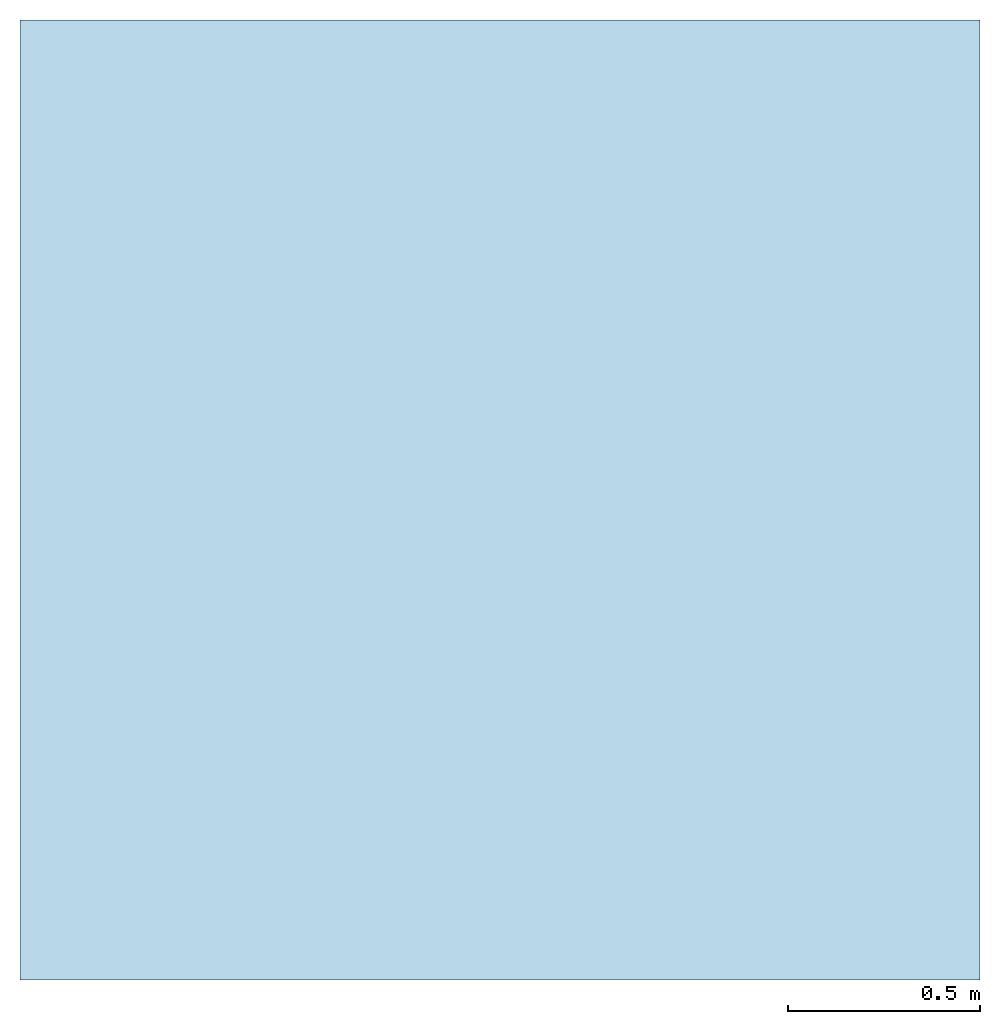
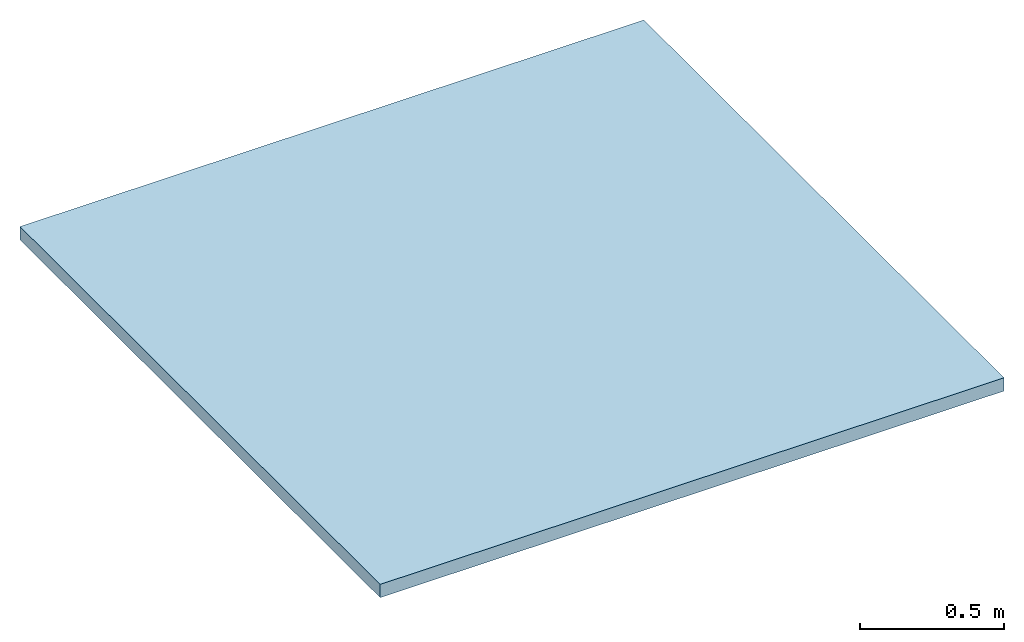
# One storey: 1 slab, 1 element without a shape of its own.
"""IFC2X3 building model written with IfcOpenShell, lengths in millimetres."""

from ifc_helpers import new_model, entity, si_unit, converted_unit, derived_unit, direction, frame, frame_2d, origin, place, context, subcontext, project, spatial, rectangle, extrude, material, layer, layer_set, type_object, element, aggregate, save


model = new_model("IFC2X3")

# Units and contexts
model_context = context("Model", 3, precision=0.01, world=origin(), true_north=direction((6.123031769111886e-17, 1.0)))
body_context = subcontext(model_context, "Body", "Model", "MODEL_VIEW")
ifc_project = project(units=[si_unit("LENGTHUNIT", "METRE", prefix="MILLI"), si_unit("AREAUNIT", "SQUARE_METRE"), si_unit("VOLUMEUNIT", "CUBIC_METRE"), converted_unit("PLANEANGLEUNIT", "DEGREE", entity("IfcRatioMeasure", 0.017453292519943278), si_unit("PLANEANGLEUNIT", "RADIAN"), dimensions=[0, 0, 0, 0, 0, 0, 0]), si_unit("MASSUNIT", "GRAM", prefix="KILO"), derived_unit("MASSDENSITYUNIT", [(si_unit("MASSUNIT", "GRAM", prefix="KILO"), 1), (si_unit("LENGTHUNIT", "METRE"), -3)]), derived_unit("MOMENTOFINERTIAUNIT", [(si_unit("LENGTHUNIT", "METRE"), 4)]), si_unit("TIMEUNIT", "SECOND"), si_unit("FREQUENCYUNIT", "HERTZ"), si_unit("THERMODYNAMICTEMPERATUREUNIT", "DEGREE_CELSIUS"), derived_unit("THERMALTRANSMITTANCEUNIT", [(si_unit("MASSUNIT", "GRAM", prefix="KILO"), 1), (si_unit("THERMODYNAMICTEMPERATUREUNIT", "KELVIN"), -1), (si_unit("TIMEUNIT", "SECOND"), -3)]), derived_unit("VOLUMETRICFLOWRATEUNIT", [(si_unit("LENGTHUNIT", "METRE"), 3), (si_unit("TIMEUNIT", "SECOND"), -1)]), derived_unit("MASSFLOWRATEUNIT", [(si_unit("MASSUNIT", "GRAM", prefix="KILO"), 1), (si_unit("TIMEUNIT", "SECOND"), -1)]), derived_unit("ROTATIONALFREQUENCYUNIT", [(si_unit("TIMEUNIT", "SECOND"), -1)]), si_unit("ELECTRICCURRENTUNIT", "AMPERE"), si_unit("ELECTRICVOLTAGEUNIT", "VOLT"), si_unit("POWERUNIT", "WATT"), si_unit("FORCEUNIT", "NEWTON", prefix="KILO"), si_unit("ILLUMINANCEUNIT", "LUX"), si_unit("LUMINOUSFLUXUNIT", "LUMEN"), si_unit("LUMINOUSINTENSITYUNIT", "CANDELA"), derived_unit("USERDEFINED", [(si_unit("MASSUNIT", "GRAM", prefix="KILO"), -1), (si_unit("LENGTHUNIT", "METRE"), -2), (si_unit("TIMEUNIT", "SECOND"), 3), (si_unit("LUMINOUSFLUXUNIT", "LUMEN"), 1)]), derived_unit("SOUNDPOWERUNIT", [(si_unit("POWERUNIT", "WATT"), 1)]), derived_unit("LINEARVELOCITYUNIT", [(si_unit("LENGTHUNIT", "METRE"), 1), (si_unit("TIMEUNIT", "SECOND"), -1)]), si_unit("PRESSUREUNIT", "PASCAL"), derived_unit("USERDEFINED", [(si_unit("LENGTHUNIT", "METRE"), -2), (si_unit("MASSUNIT", "GRAM", prefix="KILO"), 1), (si_unit("TIMEUNIT", "SECOND"), -2)]), derived_unit("LINEARFORCEUNIT", [(si_unit("MASSUNIT", "GRAM", prefix="KILO"), 1), (si_unit("LENGTHUNIT", "METRE"), 1), (si_unit("TIMEUNIT", "SECOND"), -2), (si_unit("LENGTHUNIT", "METRE"), -1)]), derived_unit("PLANARFORCEUNIT", [(si_unit("MASSUNIT", "GRAM", prefix="KILO"), 1), (si_unit("LENGTHUNIT", "METRE"), 1), (si_unit("TIMEUNIT", "SECOND"), -2), (si_unit("LENGTHUNIT", "METRE"), -2)])], contexts=[model_context])

# Site, building, storey
site_placement = place(None, origin())
site = spatial("IfcSite", under=ifc_project, at=site_placement, Name="Default", CompositionType="ELEMENT")
building_placement = place(site_placement, origin())
building = spatial("IfcBuilding", under=site, at=building_placement, CompositionType="ELEMENT")
storey_placement = place(building_placement, origin())
storey = spatial("IfcBuildingStorey", under=building, at=storey_placement, Name="Level 0", CompositionType="ELEMENT", Elevation=0.0)

# Roof, slab
ifc_material_1 = material(Name="NBS_IKOUK_Liquid-appliedInvertedRoofCoveringSystems_IKOPermatecLIStandardInvertedHotMeltRoofingAndWaterproofingSystem_IKOEnerthermWaterControlLayer")
ifc_layer_1 = layer(ifc_material_1, 1.0)
ifc_material_2 = material(Name="NBS_IKOUK_Liquid-appliedInvertedRoofCoveringSystems_IKOPermatecLIStandardInvertedHotMeltRoofingAndWaterproofingSystem_IKOEnerthermXPSInsulationBoard")
ifc_layer_2 = layer(ifc_material_2, 50.0)
ifc_material_3 = material(Name="NBS_IKOUK_Liquid-appliedInvertedRoofCoveringSystems_IKOPermatecLIStandardInvertedHotMeltRoofingAndWaterproofingSystem_IKOPermaguard-FProtectionLayer")
ifc_layer_3 = layer(ifc_material_3, 1.0)
ifc_material_4 = material(Name="NBS_IKOUK_Liquid-appliedInvertedRoofCoveringSystems_IKOPermatecLIStandardInvertedHotMeltRoofingAndWaterproofingSystem_IKOPermaflash-RReinforcement")
ifc_layer_4 = layer(ifc_material_4, 1.0)
ifc_material_5 = material(Name="NBS_IKOUK_Liquid-appliedInvertedRoofCoveringSystems_IKOPermatecLIStandardInvertedHotMeltRoofingAndWaterproofingSystem_2NoCoatsOfIKOPermatecLIEcowrapHotMeltCompound")
ifc_layer_5 = layer(ifc_material_5, 1.0)
ifc_material_6 = material(Name="NBS_IKOUK_Liquid-appliedInvertedRoofCoveringSystems_IKOPermatecLIStandardInvertedHotMeltRoofingAndWaterproofingSystem_IKOPermatecPolymerPrimer")
ifc_layer_6 = layer(ifc_material_6, 1.0)
ifc_layer_7 = layer(ifc_material_6, 1.0)
ifc_layer_set = layer_set([ifc_layer_1, ifc_layer_2, ifc_layer_3, ifc_layer_4, ifc_layer_5, ifc_layer_6, ifc_layer_7], Name="Basic Roof:NBS_IKOUK_Liquid-appliedInvertedRoofCoveringSystems_-IKOPermatecLIStandardInvertedHotMeltRoofingAndWaterproofingSystem")
roof_placement = place(storey_placement, frame((1524.0, -6024.0, 0.0)))
roof = element("IfcRoof", 1, at=roof_placement, inside=storey, material=ifc_layer_set, Name="Basic Roof:NBS_IKOUK_Liquid-appliedInvertedRoofCoveringSystems_-IKOPermatecLIStandardInvertedHotMeltRoofingAndWaterproofingSystem", ObjectType="Basic Roof:NBS_IKOUK_Liquid-appliedInvertedRoofCoveringSystems_-IKOPermatecLIStandardInvertedHotMeltRoofingAndWaterproofingSystem", ShapeType="FLAT_ROOF")
slab_type = type_object("IfcSlabType", Name="Basic Roof:NBS_IKOUK_Liquid-appliedInvertedRoofCoveringSystems_-IKOPermatecLIStandardInvertedHotMeltRoofingAndWaterproofingSystem", PredefinedType="ROOF")
slab_placement = place(roof_placement, origin())
slab = element("IfcSlab", 2, at=slab_placement, type_object=slab_type, material=ifc_layer_set, Name="Basic Roof:NBS_IKOUK_Liquid-appliedInvertedRoofCoveringSystems_-IKOPermatecLIStandardInvertedHotMeltRoofingAndWaterproofingSystem", ObjectType="Basic Roof:NBS_IKOUK_Liquid-appliedInvertedRoofCoveringSystems_-IKOPermatecLIStandardInvertedHotMeltRoofingAndWaterproofingSystem", PredefinedType="ROOF", context=body_context, shape_type="SweptSolid", body=[
    extrude(rectangle(XDim=2500.0, YDim=2500.0, at=frame_2d((0.0, 0.0), x_axis=(0.0, 1.0))), frame((1250.0, 1250.0, 0.0)), (0.0, 0.0, 1.0), 56.00000000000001),
])
aggregate(roof, [slab])

save(model, "model.ifc")
